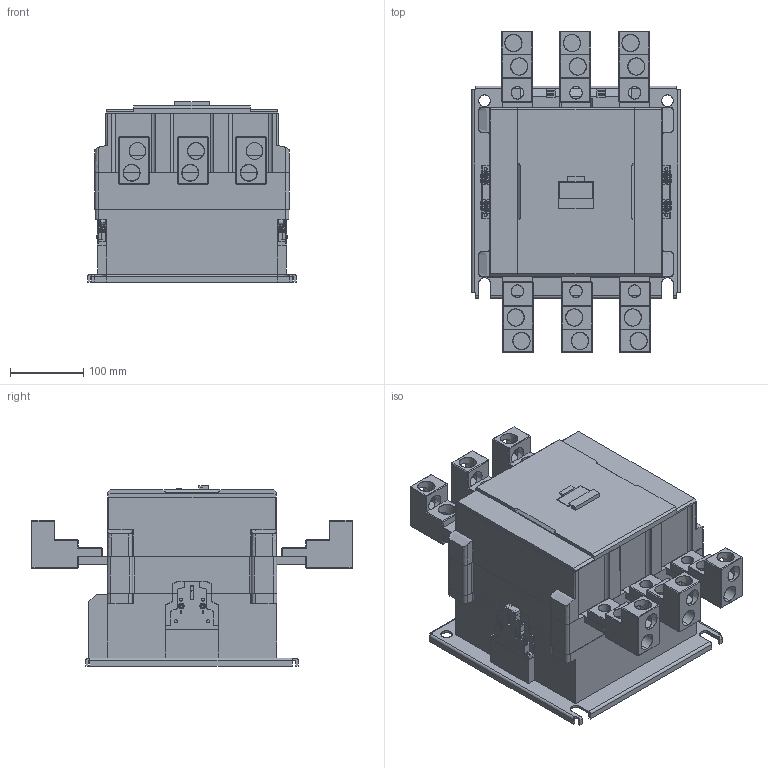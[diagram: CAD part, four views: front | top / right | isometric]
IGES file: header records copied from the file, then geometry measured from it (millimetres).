
Start section: SolidWorks IGES file using analytic representation for surfaces
Global section: file name: Q:\GROUPS\BR_SC_JGS_WA_TECNICO\ENG\Usuarios\Rodrigob\conversão\contatores\Produto\CWM500-CWM630-CWM800+BMJ\CWM500-CWM630-CWM800+BMJ.IGS; native system: SolidWorks 2009; preprocessor: SolidWorks 2009; author: rodrigob; date: 110922.114622; units: millimetre
Bounding box: 285 x 439.3 x 246.52 mm (x, y, z)
Surface area: 1541516.6 mm2 (no closed solid volume)
Topology: 0 solids, 0 shells, 2481 faces, 25240 edges, 25172 vertices
Faces by surface type: bspline 1973, revolution 508
